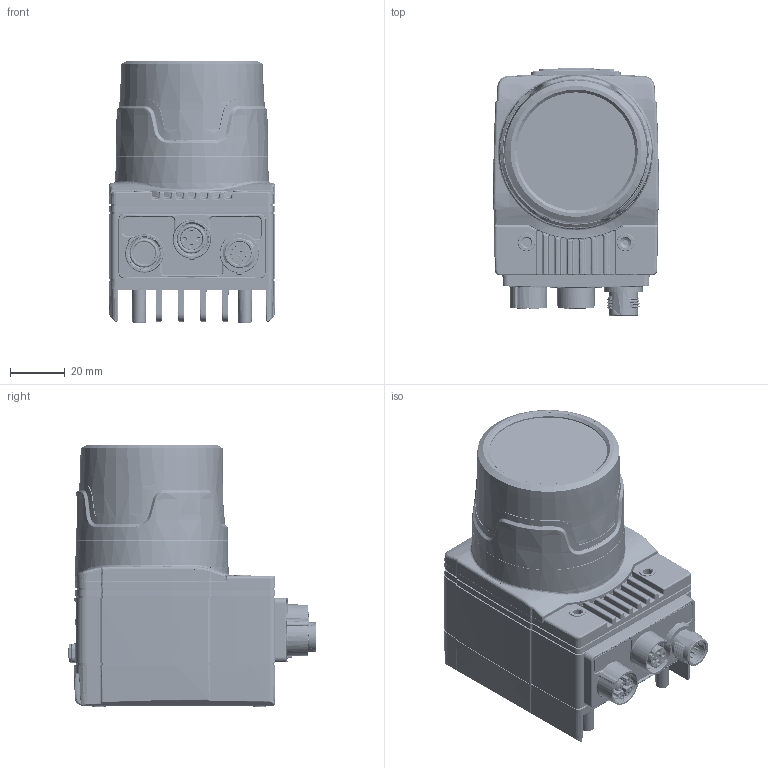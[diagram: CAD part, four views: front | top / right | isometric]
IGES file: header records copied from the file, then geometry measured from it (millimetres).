
Start section: SolidWorks IGES file using analytic representation for surfaces
Global section: file name: D:\Cog_Vault\Portland Vault\Projects\Marketing Graphics\IS016-10\IS016-10_3-21-18.IGS; native system: SolidWorks 2017; preprocessor: SolidWorks 2017; author: rgainer; date: 180330.112122; units: millimetre
Bounding box: 60.5 x 90.39 x 95.3 mm (x, y, z)
Surface area: 79228.3 mm2 (no closed solid volume)
Topology: 0 solids, 0 shells, 6032 faces, 57940 edges, 57788 vertices
Faces by surface type: bspline 3907, revolution 2125
